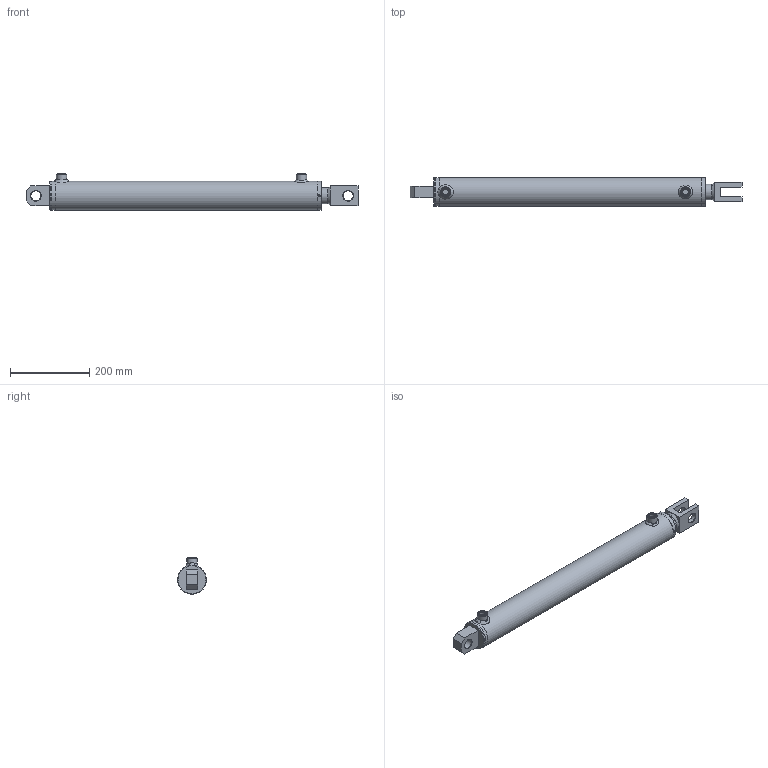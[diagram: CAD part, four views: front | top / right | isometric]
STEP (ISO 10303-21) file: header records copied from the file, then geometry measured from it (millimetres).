
FILE_DESCRIPTION( ( 'Unknown' ), '1' );
FILE_NAME( 'E:/LIBRERIA_3d/CILINDRI/HM5/HM5063400550.stp', 'Unknown', ( 'Unknown' ), ( 'Unknown' ), 'PSStep 17.0.49', 'Unknown', ' ' );
FILE_SCHEMA( ( 'AUTOMOTIVE_DESIGN { 1 0 10303 214 1 1 1 1 }' ) );
Length unit declared in the file: millimetre
Products named in the file (27): CG07306340; CT00063024; STL0630730550-oa6; Saldatura d'angolo 1-oa4; MAT_PRIMA_TUBO_FT07306300-oa5; CBSC220600; HM0063400550; Saldatura con preparazione 1-oa2; Saldatura d'angolo 1-oa3; CBS0600000; CF00063073; CDA0002420; APG0600000; SBL0400630550; Assem1; CSCS004010; COF2500000; CFS0000025; Saldatura con preparazione 1-oa0; Saldatura d'angolo 2-oa1
Assembly tree (21 placements, depth 4):
  Saldatura d'angolo 1-oa4
  Saldatura d'angolo 1-oa4
  Saldatura d'angolo 1-oa3
  Saldatura d'angolo 1-oa3
  Assem1
    CSCS004010
    COF2500000
    CFS0000025
    Saldatura con preparazione 1-oa0
    Saldatura con preparazione 1-oa0
    HM0063400550
      Saldatura con preparazione 1-oa2
      Saldatura con preparazione 1-oa2
      CBS0600000
      CF00063073
      CDA0002420
      APG0600000  x2
      SBL0400630550
      CG07306340
        CG07306340
      CT00063024
        CT00063024
      STL0630730550-oa6
        MAT_PRIMA_TUBO_FT07306300-oa5
        CBSC220600
Bounding box: 840 x 73 x 92 mm (x, y, z)
Volume: 1961287.3 mm3; surface area: 502438.5 mm2
Topology: 23 solids, 23 shells, 257 faces, 544 edges, 342 vertices
Faces by surface type: plane 84, cylinder 68, cone 47, torus 38, bspline 20
Full cylindrical faces by diameter (mm): 4.25 x3, 5 x2, 6 x2, 7 x2, 14.95 x2, 16 x2, 16.6 x2, 22 x2, 23.4 x1, 24 x5, 25.25 x3, 26 x2, 28.5 x1, 36 x1, 40 x8, 42 x1, 43 x1, 47 x1, 48 x1, 48.6 x1, 58 x1, 58.39 x2, 61.63 x2, 62.9 x1, 63 x1, 63.8 x1, 64 x1, 64.1 x1, 65 x4, 66.376 x1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
Entity records: 10890 total; most frequent: CARTESIAN_POINT 4421, DIRECTION 990, ORIENTED_EDGE 638, AXIS2_PLACEMENT_3D 455, EDGE_LOOP 444, FACE_OUTER_BOUND 351, EDGE_CURVE 319, VERTEX_POINT 278
